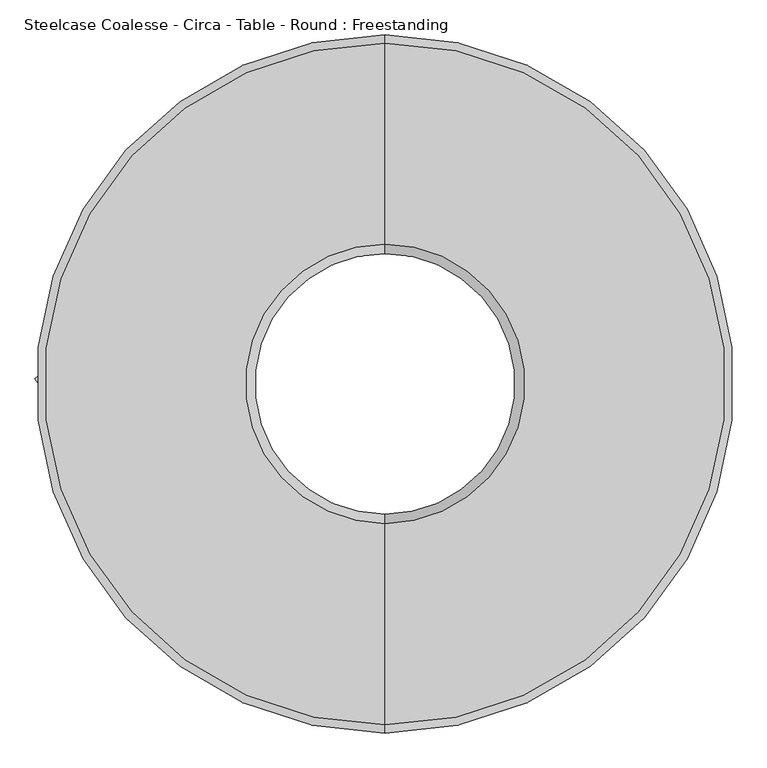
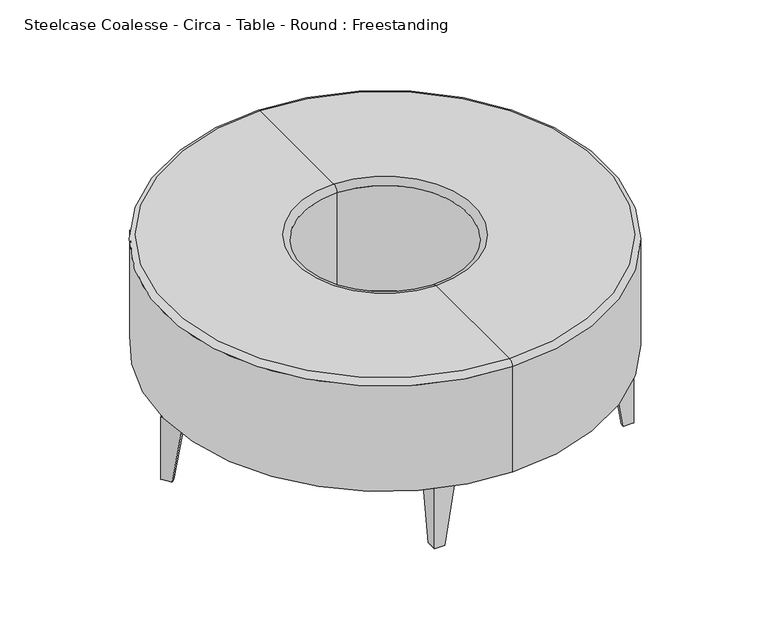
"""IFC4 building model written with IfcOpenShell, lengths in millimetres: furniture geometry, Steelcase Coalesse - Circa - Table - Round : Freestanding."""

from ifc_helpers import new_model, si_unit, point, frame, origin, place, context, project, spatial, polyline, circle_curve, ellipse_curve, trimmed, source, transform, mapped, element, save
from ifc_brep_helpers import plane_surface, cylinder_surface, revolved_surface, spline_surface, advanced_brep


def steelcase_coalesse_circa_table_round_freestanding_a4bb9338(model_context):
    return source(origin(), model_context, "Body", "AdvancedBrep", [
        advanced_brep(
        [(-242.1582002, 523.3010318, 0.0), (-242.3540708, 497.9017871, 0.0), (-251.8782068, 497.9751614, 0.0), (-267.629352, 513.9714227, 0.0), (-267.5558947, 523.4968904, 0.0), (-242.157628, 523.2998405, 159.258), (-292.9541803, 523.6914939, 159.258), (-293.027629, 514.1671405, 159.258), (-252.0740665, 472.5773215, 159.258), (-242.5493497, 472.5038701, 159.258)],
        [
            (0, 1),
            (1, 2),
            (2, 3),
            (3, 4),
            (4, 0),
            (5, 6),
            (6, 7),
            (7, 8),
            (8, 9),
            (9, 5),
            (9, 1),
            (0, 5),
            (8, 2),
            (7, 3),
            (6, 4),
        ],
        [
            plane_surface(frame((-254.3151449, 511.3292587, 0.0), z_axis=(0.0, 0.0, -1.0), x_axis=(0.007711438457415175, 0.9999702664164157, 0.0))),
            plane_surface(frame((-264.5525707, 501.2479333, 159.258), z_axis=(0.0, 0.0, 1.0), x_axis=(0.007711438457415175, 0.9999702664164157, 0.0))),
            plane_surface(frame((-242.3534889, 497.9018553, 159.258), z_axis=(0.9999702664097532, -0.007711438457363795, -3.6504280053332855e-06), x_axis=(-0.007711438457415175, -0.9999702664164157, 0.0))),
            spline_surface(1, 1, [[(-242.5493497, 472.5038701, 159.258), (-242.3540708, 497.9017871, 0.0)], [(-252.0740665, 472.5773215, 159.258), (-251.8782068, 497.9751614, 0.0)]], [2, 2], [2, 2], [0.0, 1.0], [0.0, 1.0]),
            spline_surface(1, 1, [[(-252.0740665, 472.5773215, 159.258), (-251.8782068, 497.9751614, 0.0)], [(-293.027629, 514.1671405, 159.258), (-267.629352, 513.9714227, 0.0)]], [2, 2], [2, 2], [0.0, 1.0], [0.0, 1.0]),
            plane_surface(frame((-292.9909046, 518.9293172, 159.258), z_axis=(-0.9874907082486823, 0.007615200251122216, -0.157493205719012), x_axis=(0.007711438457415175, 0.9999702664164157, 0.0))),
            spline_surface(1, 1, [[(-292.9541803, 523.6914939, 159.258), (-267.5558947, 523.4968904, 0.0)], [(-242.157628, 523.2998405, 159.258), (-242.1582002, 523.3010318, 0.0)]], [2, 2], [2, 2], [0.0, 1.0], [0.0, 1.0]),
        ],
        [
            (0, [[1, 2, 3, 4, 5]]),
            (1, [[6, 7, 8, 9, 10]]),
            (2, [[-10, 11, -1, 12]]),
            (3, [[-9, 13, -2, -11]]),
            (4, [[-8, 14, -3, -13]]),
            (5, [[-7, 15, -4, -14]]),
            (6, [[-6, -12, -5, -15]]),
        ],
    ),
        advanced_brep(
        [(-831.2667225, -279.5196204, 0.0), (-831.4625811, -254.1219259, 0.0), (-821.9371134, -254.0484686, 0.0), (-805.940852, -269.7996139, 0.0), (-805.8674777, -279.3237499, 0.0), (-831.2655311, -279.5201926, 159.258), (-780.4695607, -279.1284709, 159.258), (-780.5430122, -269.6037541, 159.258), (-822.1328311, -228.6501916, 159.258), (-831.6571845, -228.7236403, 159.258)],
        [
            (0, 1),
            (1, 2),
            (2, 3),
            (3, 4),
            (4, 0),
            (5, 6),
            (6, 7),
            (7, 8),
            (8, 9),
            (9, 5),
            (9, 1),
            (0, 5),
            (8, 2),
            (7, 3),
            (6, 4),
        ],
        [
            plane_surface(frame((-819.2949493, -267.3626757, 0.0), z_axis=(0.0, 0.0, -1.0000000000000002), x_axis=(-0.00770380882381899, 0.999970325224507, 0.0))),
            plane_surface(frame((-809.2136239, -257.1252499, 159.258), z_axis=(0.0, 0.0, 1.0000000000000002), x_axis=(-0.00770380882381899, 0.999970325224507, 0.0))),
            spline_surface(1, 1, [[(-831.2655311, -279.5201926, 159.258), (-831.2667225, -279.5196204, 0.0)], [(-831.6571845, -228.7236403, 159.258), (-831.4625811, -254.1219259, 0.0)]], [2, 2], [2, 2], [0.0, 1.0], [0.0, 1.0]),
            plane_surface(frame((-826.8950078, -228.686916, 159.258), z_axis=(-0.00761520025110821, 0.9874907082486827, -0.1574932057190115), x_axis=(0.999970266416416, 0.007711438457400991, 0.0))),
            spline_surface(1, 1, [[(-822.1328311, -228.6501916, 159.258), (-821.9371134, -254.0484686, 0.0)], [(-780.5430122, -269.6037541, 159.258), (-805.940852, -269.7996139, 0.0)]], [2, 2], [2, 2], [0.0, 1.0], [0.0, 1.0]),
            spline_surface(1, 1, [[(-780.5430122, -269.6037541, 159.258), (-805.940852, -269.7996139, 0.0)], [(-780.4695607, -279.1284709, 159.258), (-805.8674777, -279.3237499, 0.0)]], [2, 2], [2, 2], [0.0, 1.0], [0.0, 1.0]),
            plane_surface(frame((-805.8675459, -279.3243318, 159.258), z_axis=(0.0077114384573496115, -0.9999702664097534, -3.6504280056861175e-06), x_axis=(-0.999970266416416, -0.007711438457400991, 0.0))),
        ],
        [
            (0, [[1, 2, 3, 4, 5]]),
            (1, [[6, 7, 8, 9, 10]]),
            (2, [[-10, 11, -1, 12]]),
            (3, [[-9, 13, -2, -11]]),
            (4, [[-8, 14, -3, -13]]),
            (5, [[-7, 15, -4, -14]]),
            (6, [[-6, -12, -5, -15]]),
        ],
    ),
        advanced_brep(
        [(-825.5842259, 705.7686237, 0.0), (-800.1849811, 705.5727531, 0.0), (-800.2583554, 696.0486171, 0.0), (-816.2546167, 680.2974719, 0.0), (-825.7800844, 680.3709291, 0.0), (-825.5830345, 705.7691958, 159.258), (-825.9746879, 654.9726436, 159.258), (-816.4503345, 654.8991949, 159.258), (-774.8605155, 695.8527574, 159.258), (-774.7870641, 705.3774742, 159.258)],
        [
            (0, 1),
            (1, 2),
            (2, 3),
            (3, 4),
            (4, 0),
            (5, 6),
            (6, 7),
            (7, 8),
            (8, 9),
            (9, 5),
            (9, 1),
            (0, 5),
            (8, 2),
            (7, 3),
            (6, 4),
        ],
        [
            plane_surface(frame((-813.6124527, 693.611679, 0.0), z_axis=(0.0, 0.0, -1.0000000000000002), x_axis=(-0.9999702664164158, 0.007711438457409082, 0.0))),
            plane_surface(frame((-803.5311273, 683.3742532, 159.258), z_axis=(0.0, 0.0, 1.0000000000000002), x_axis=(-0.9999702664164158, 0.007711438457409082, 0.0))),
            plane_surface(frame((-800.1850493, 705.573335, 159.258), z_axis=(0.007711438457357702, 0.9999702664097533, -3.650428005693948e-06), x_axis=(0.9999702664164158, -0.007711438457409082, 0.0))),
            spline_surface(1, 1, [[(-774.7870641, 705.3774742, 159.258), (-800.1849811, 705.5727531, 0.0)], [(-774.8605155, 695.8527574, 159.258), (-800.2583554, 696.0486171, 0.0)]], [2, 2], [2, 2], [0.0, 1.0], [0.0, 1.0]),
            spline_surface(1, 1, [[(-774.8605155, 695.8527574, 159.258), (-800.2583554, 696.0486171, 0.0)], [(-816.4503345, 654.8991949, 159.258), (-816.2546167, 680.2974719, 0.0)]], [2, 2], [2, 2], [0.0, 1.0], [0.0, 1.0]),
            plane_surface(frame((-821.2125112, 654.9359192, 159.258), z_axis=(-0.0076152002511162, -0.9874907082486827, -0.15749320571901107), x_axis=(-0.9999702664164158, 0.007711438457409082, 0.0))),
            spline_surface(1, 1, [[(-825.9746879, 654.9726436, 159.258), (-825.7800844, 680.3709291, 0.0)], [(-825.5830345, 705.7691958, 159.258), (-825.5842259, 705.7686237, 0.0)]], [2, 2], [2, 2], [0.0, 1.0], [0.0, 1.0]),
        ],
        [
            (0, [[1, 2, 3, 4, 5]]),
            (1, [[6, 7, 8, 9, 10]]),
            (2, [[-10, 11, -1, 12]]),
            (3, [[-9, 13, -2, -11]]),
            (4, [[-8, 14, -3, -13]]),
            (5, [[-7, 15, -4, -14]]),
            (6, [[-6, -12, -5, -15]]),
        ],
    ),
        advanced_brep(
        [(-242.1582002, -90.8203847, 0.0), (-267.5558947, -91.0162432, 0.0), (-267.629352, -81.4907755, 0.0), (-251.8782068, -65.4945142, 0.0), (-242.3540708, -65.4211399, 0.0), (-242.157628, -90.8191933, 159.258), (-242.5493497, -40.0232229, 159.258), (-252.0740665, -40.0966743, 159.258), (-293.027629, -81.6864933, 159.258), (-292.9541803, -91.2108467, 159.258)],
        [
            (0, 1),
            (1, 2),
            (2, 3),
            (3, 4),
            (4, 0),
            (5, 6),
            (6, 7),
            (7, 8),
            (8, 9),
            (9, 5),
            (9, 1),
            (0, 5),
            (8, 2),
            (7, 3),
            (6, 4),
        ],
        [
            plane_surface(frame((-254.3151449, -78.8486115, 0.0), z_axis=(0.0, 0.0, -1.0000000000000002), x_axis=(-0.9999703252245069, -0.007703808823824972, 0.0))),
            plane_surface(frame((-264.5525707, -68.7672861, 159.258), z_axis=(0.0, 0.0, 1.0000000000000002), x_axis=(-0.9999703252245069, -0.007703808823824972, 0.0))),
            spline_surface(1, 1, [[(-242.157628, -90.8191933, 159.258), (-242.1582002, -90.8203847, 0.0)], [(-292.9541803, -91.2108467, 159.258), (-267.5558947, -91.0162432, 0.0)]], [2, 2], [2, 2], [0.0, 1.0], [0.0, 1.0]),
            plane_surface(frame((-292.9909046, -86.44867, 159.258), z_axis=(-0.9874907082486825, -0.007615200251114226, -0.157493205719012), x_axis=(-0.007711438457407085, 0.9999702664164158, 0.0))),
            spline_surface(1, 1, [[(-293.027629, -81.6864933, 159.258), (-267.629352, -81.4907755, 0.0)], [(-252.0740665, -40.0966743, 159.258), (-251.8782068, -65.4945142, 0.0)]], [2, 2], [2, 2], [0.0, 1.0], [0.0, 1.0]),
            spline_surface(1, 1, [[(-252.0740665, -40.0966743, 159.258), (-251.8782068, -65.4945142, 0.0)], [(-242.5493497, -40.0232229, 159.258), (-242.3540708, -65.4211399, 0.0)]], [2, 2], [2, 2], [0.0, 1.0], [0.0, 1.0]),
            plane_surface(frame((-242.3534889, -65.4212081, 159.258), z_axis=(0.9999702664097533, 0.007711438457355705, -3.650428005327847e-06), x_axis=(0.007711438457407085, -0.9999702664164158, 0.0))),
        ],
        [
            (0, [[1, 2, 3, 4, 5]]),
            (1, [[6, 7, 8, 9, 10]]),
            (2, [[-10, 11, -1, 12]]),
            (3, [[-9, 13, -2, -11]]),
            (4, [[-8, 14, -3, -13]]),
            (5, [[-7, 15, -4, -14]]),
            (6, [[-6, -12, -5, -15]]),
        ],
    ),
        advanced_brep(
        [(-1198.7860001, 224.0847903, 0.0), (-1178.5054168, 239.3772048, 0.0), (-1172.7710534, 231.772494, 0.0), (-1175.8887007, 209.5405524, 0.0), (-1183.494519, 203.8054449, 0.0), (-1198.7854024, 224.0859691, 159.258), (-1168.2016822, 183.5263935, 159.258), (-1160.5967536, 189.2608302, 159.258), (-1152.4915918, 247.0640626, 159.258), (-1158.2262472, 254.6692813, 159.258)],
        [
            (0, 1),
            (1, 2),
            (2, 3),
            (3, 4),
            (4, 0),
            (5, 6),
            (6, 7),
            (7, 8),
            (8, 9),
            (9, 5),
            (9, 1),
            (0, 5),
            (8, 2),
            (7, 3),
            (6, 4),
        ],
        [
            plane_surface(frame((-1181.889138, 221.7160973, 0.0), z_axis=(0.0, 0.0, -1.0), x_axis=(-0.7984481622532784, -0.6020635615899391, 0.0))),
            plane_surface(frame((-1167.6603354, 219.7213074, 159.258), z_axis=(0.0, 0.0, 1.0), x_axis=(-0.7984481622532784, -0.6020635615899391, 0.0))),
            plane_surface(frame((-1178.5058248, 239.3776252, 159.258), z_axis=(-0.6020635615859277, 0.7984481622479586, -3.6504280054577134e-06), x_axis=(0.7984481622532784, 0.6020635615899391, 0.0))),
            spline_surface(1, 1, [[(-1158.2262472, 254.6692813, 159.258), (-1178.5054168, 239.3772048, 0.0)], [(-1152.4915918, 247.0640626, 159.258), (-1172.7710534, 231.772494, 0.0)]], [2, 2], [2, 2], [0.0, 1.0], [0.0, 1.0]),
            spline_surface(1, 1, [[(-1152.4915918, 247.0640626, 159.258), (-1172.7710534, 231.772494, 0.0)], [(-1160.5967536, 189.2608302, 159.258), (-1175.8887007, 209.5405524, 0.0)]], [2, 2], [2, 2], [0.0, 1.0], [0.0, 1.0]),
            plane_surface(frame((-1164.3992179, 186.3936119, 159.258), z_axis=(0.5945498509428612, -0.7884835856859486, -0.15749320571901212), x_axis=(-0.7984481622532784, -0.6020635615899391, 0.0))),
            spline_surface(1, 1, [[(-1168.2016822, 183.5263935, 159.258), (-1183.494519, 203.8054449, 0.0)], [(-1198.7854024, 224.0859691, 159.258), (-1198.7860001, 224.0847903, 0.0)]], [2, 2], [2, 2], [0.0, 1.0], [0.0, 1.0]),
        ],
        [
            (0, [[1, 2, 3, 4, 5]]),
            (1, [[6, 7, 8, 9, 10]]),
            (2, [[-10, 11, -1, 12]]),
            (3, [[-9, 13, -2, -11]]),
            (4, [[-8, 14, -3, -13]]),
            (5, [[-7, 15, -4, -14]]),
            (6, [[-6, -12, -5, -15]]),
        ],
    ),
        advanced_brep(
        [(-663.917922, 17.2981772, 159.258), (-663.917922, 415.18247, 159.258), (-663.917922, 749.040362, 159.258), (-663.917922, -316.5597149, 159.258), (-663.917922, 17.2981772, 426.1332648), (-663.917922, 415.18247, 426.1332648), (-663.917922, 3.2178688, 440.2135732), (-663.917922, 429.2627784, 440.2135732), (-663.917922, -303.8597149, 440.2135732), (-663.917922, 736.340362, 440.2135732), (-663.917922, -316.5597149, 427.5135732), (-663.917922, 749.040362, 427.5135732)],
        [
            (0, 1, circle_curve(frame((-663.917922, 216.2403236, 159.258), z_axis=(0.0, 0.0, 1.0), x_axis=(0.0, 1.0, 0.0)), 198.9421464)),
            (1, 2),
            (2, 3, circle_curve(frame((-663.917922, 216.2403236, 159.258), z_axis=(0.0, 0.0, -1.0), x_axis=(0.0, 1.0, 0.0)), 532.8000384)),
            (3, 0),
            (1, 0, circle_curve(frame((-663.917922, 216.2403236, 159.258), z_axis=(0.0, 0.0, 1.0), x_axis=(0.0, 1.0, 0.0)), 198.9421464)),
            (3, 2, circle_curve(frame((-663.917922, 216.2403236, 159.258), z_axis=(0.0, 0.0, -1.0), x_axis=(0.0, 1.0, 0.0)), 532.8000384)),
            (4, 5, circle_curve(frame((-663.917922, 216.2403236, 426.1332648), z_axis=(0.0, 0.0, 1.0), x_axis=(0.0, 1.0, 0.0)), 198.9421464)),
            (5, 1),
            (0, 4),
            (5, 4, circle_curve(frame((-663.917922, 216.2403236, 426.1332648), z_axis=(0.0, 0.0, 1.0), x_axis=(0.0, 1.0, 0.0)), 198.9421464)),
            (6, 7, circle_curve(frame((-663.917922, 216.2403236, 440.2135732), z_axis=(0.0, 0.0, 1.0), x_axis=(0.0, 1.0, 0.0)), 213.0224548)),
            (7, 5, circle_curve(frame((-663.917922, 429.2627784, 426.1332648), z_axis=(1.0, 0.0, 0.0), x_axis=(0.0, -1.0, 0.0)), 14.0803083)),
            (4, 6, circle_curve(frame((-663.917922, 3.2178688, 426.1332648), z_axis=(1.0, 0.0, 0.0), x_axis=(0.0, 1.0, 0.0)), 14.0803083)),
            (7, 6, circle_curve(frame((-663.917922, 216.2403236, 440.2135732), z_axis=(0.0, 0.0, 1.0), x_axis=(0.0, 1.0, 0.0)), 213.0224548)),
            (8, 9, circle_curve(frame((-663.917922, 216.2403236, 440.2135732), z_axis=(0.0, 0.0, 1.0), x_axis=(0.0, 1.0, 0.0)), 520.1000384)),
            (9, 7),
            (6, 8),
            (9, 8, circle_curve(frame((-663.917922, 216.2403236, 440.2135732), z_axis=(0.0, 0.0, 1.0), x_axis=(0.0, 1.0, 0.0)), 520.1000384)),
            (10, 11, circle_curve(frame((-663.917922, 216.2403236, 427.5135732), z_axis=(0.0, 0.0, 1.0), x_axis=(0.0, 1.0, 0.0)), 532.8000384)),
            (11, 9, circle_curve(frame((-663.917922, 736.340362, 427.5135732), z_axis=(1.0, 0.0, 0.0), x_axis=(0.0, -1.0, 0.0)), 12.7)),
            (8, 10, circle_curve(frame((-663.917922, -303.8597149, 427.5135732), z_axis=(1.0, 0.0, 0.0), x_axis=(0.0, 1.0, 0.0)), 12.7)),
            (11, 10, circle_curve(frame((-663.917922, 216.2403236, 427.5135732), z_axis=(0.0, 0.0, 1.0), x_axis=(0.0, 1.0, 0.0)), 532.8000384)),
            (2, 11),
            (10, 3),
        ],
        [
            plane_surface(frame((-663.917922, 216.2403236, 159.258), z_axis=(0.0, 0.0, -1.0), x_axis=(0.0, 1.0, 0.0))),
            revolved_surface(polyline([(-663.917922, 415.18247, 159.25800000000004), (-663.917922, 415.18247, 426.1332648)]), (-663.917922, 216.2403236, 497.3635732), (0.0, 0.0, -1.0)),
            revolved_surface(trimmed(ellipse_curve(frame((-663.917922, 429.2627784, 426.1332648), z_axis=(-1.0, 0.0, 0.0), x_axis=(0.0, -1.0, 0.0)), 14.0803083, 14.0803083), [point((-663.917922, 415.18247, 426.1332648))], [point((-663.917922, 429.2627784, 440.2135732))], True, "CARTESIAN"), (-663.917922, 216.2403236, 497.3635732), (0.0, 0.0, -1.0)),
            plane_surface(frame((-663.917922, 216.2403236, 440.2135732), z_axis=(0.0, 0.0, 1.0), x_axis=(0.0, 1.0, 0.0))),
            revolved_surface(trimmed(ellipse_curve(frame((-663.917922, 736.340362, 427.5135732), z_axis=(-1.0, 0.0, 0.0), x_axis=(0.0, -1.0, 0.0)), 12.7, 12.7), [point((-663.917922, 736.340362, 440.2135732))], [point((-663.917922, 749.040362, 427.5135732))], True, "CARTESIAN"), (-663.917922, 216.2403236, 497.3635732), (0.0, 0.0, -1.0)),
            cylinder_surface(frame((-663.917922, 216.2403236, 497.3635732), z_axis=(0.0, 0.0, -1.0), x_axis=(0.0, 1.0, 0.0)), 532.8000384),
        ],
        [
            (0, [[1, 2, 3, 4]]),
            (0, [[5, -4, 6, -2]]),
            (1, [[7, 8, -1, 9]]),
            (1, [[10, -9, -5, -8]]),
            (2, [[11, 12, -7, 13]]),
            (2, [[14, -13, -10, -12]]),
            (3, [[15, 16, -11, 17]]),
            (3, [[18, -17, -14, -16]]),
            (4, [[19, 20, -15, 21]]),
            (4, [[22, -21, -18, -20]]),
            (5, [[-3, 23, -19, 24]]),
            (5, [[-6, -24, -22, -23]]),
        ],
    ),
    ])


if __name__ == "__main__":
    model = new_model("IFC4")
    model_context = context("Model", 3, world=origin())
    ifc_project = project(units=[si_unit("LENGTHUNIT", "METRE", prefix="MILLI")], contexts=[model_context])
    site = spatial("IfcSite", under=ifc_project)
    building = spatial("IfcBuilding", under=site)
    placement = place(None, origin())
    steelcase_coalesse_circa_table_round_freestanding_shape = steelcase_coalesse_circa_table_round_freestanding_a4bb9338(model_context)
    element("IfcFurniture", 1, ObjectType="Steelcase Coalesse - Circa - Table - Round : Freestanding", at=placement, inside=building, context=model_context, shape_type="MappedRepresentation", body=[
        mapped(steelcase_coalesse_circa_table_round_freestanding_shape, transform((0.0, 0.0, 0.0), x_axis=(1.0, 0.0, 0.0), y_axis=(0.0, 1.0, 0.0), z_axis=(0.0, 0.0, 1.0))),
    ])
    save(model, "model.ifc")
